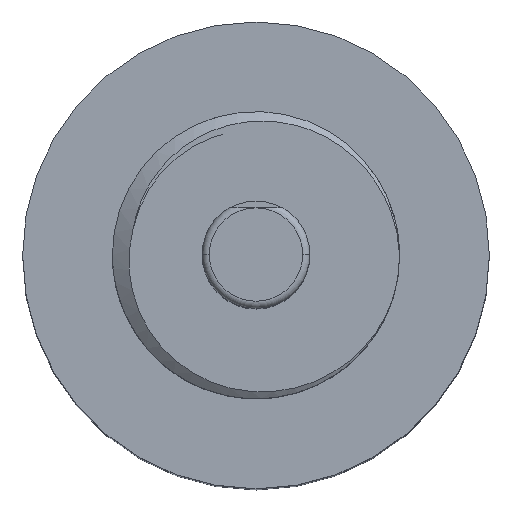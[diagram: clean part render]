
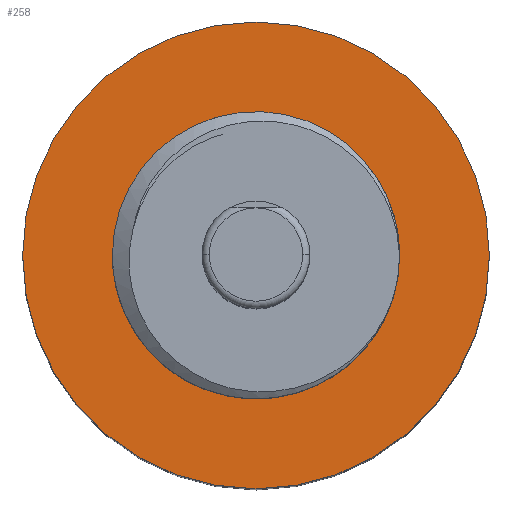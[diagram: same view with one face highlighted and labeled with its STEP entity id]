
A CAD part, top view. The second image highlights one B-rep face of the part: STEP entity #258.
In plain terms, the highlighted planar face has unit normal (0, 0, 1).
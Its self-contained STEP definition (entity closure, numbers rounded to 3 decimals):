
#52 = ORIENTED_EDGE ( 'NONE', *, *, #411, .F. ) ;
#60 = AXIS2_PLACEMENT_3D ( 'NONE', #346, #333, #198 ) ;
#65 = PLANE ( 'NONE',  #575 ) ;
#83 = EDGE_CURVE ( 'NONE', #218, #715, #167, .T. ) ;
#88 = CARTESIAN_POINT ( 'NONE',  ( 3.333, 0., -13.9 ) ) ;
#115 = ORIENTED_EDGE ( 'NONE', *, *, #83, .T. ) ;
#123 = VERTEX_POINT ( 'NONE', #1631 ) ;
#139 = AXIS2_PLACEMENT_3D ( 'NONE', #1385, #737, #1249 ) ;
#167 = CIRCLE ( 'NONE', #60, 3.333 ) ;
#182 = FACE_BOUND ( 'NONE', #328, .T. ) ;
#198 = DIRECTION ( 'NONE',  ( -1., 0., 0. ) ) ;
#210 = EDGE_CURVE ( 'NONE', #715, #218, #871, .T. ) ;
#218 = VERTEX_POINT ( 'NONE', #88 ) ;
#233 = DIRECTION ( 'NONE',  ( -1., 0., 0. ) ) ;
#250 = CIRCLE ( 'NONE', #1201, 6.5 ) ;
#258 = ADVANCED_FACE ( 'NONE', ( #1573, #182 ), #65, .F. ) ;
#328 = EDGE_LOOP ( 'NONE', ( #822, #115 ) ) ;
#333 = DIRECTION ( 'NONE',  ( 0., 0., -1. ) ) ;
#346 = CARTESIAN_POINT ( 'NONE',  ( 0., 0., -13.9 ) ) ;
#369 = AXIS2_PLACEMENT_3D ( 'NONE', #1499, #733, #233 ) ;
#395 = CARTESIAN_POINT ( 'NONE',  ( 0., 0., -13.9 ) ) ;
#397 = CIRCLE ( 'NONE', #369, 6.5 ) ;
#411 = EDGE_CURVE ( 'NONE', #123, #1038, #250, .T. ) ;
#500 = EDGE_LOOP ( 'NONE', ( #52, #559 ) ) ;
#559 = ORIENTED_EDGE ( 'NONE', *, *, #1587, .F. ) ;
#575 = AXIS2_PLACEMENT_3D ( 'NONE', #580, #1608, #937 ) ;
#580 = CARTESIAN_POINT ( 'NONE',  ( 0., -3.333, -13.9 ) ) ;
#620 = CARTESIAN_POINT ( 'NONE',  ( -3.333, 0., -13.9 ) ) ;
#715 = VERTEX_POINT ( 'NONE', #620 ) ;
#733 = DIRECTION ( 'NONE',  ( 0., 0., -1. ) ) ;
#737 = DIRECTION ( 'NONE',  ( 0., 0., -1. ) ) ;
#738 = CARTESIAN_POINT ( 'NONE',  ( 6.5, 0., -13.9 ) ) ;
#764 = DIRECTION ( 'NONE',  ( 0., 0., -1. ) ) ;
#822 = ORIENTED_EDGE ( 'NONE', *, *, #210, .T. ) ;
#871 = CIRCLE ( 'NONE', #139, 3.333 ) ;
#937 = DIRECTION ( 'NONE',  ( -1., 0., 0. ) ) ;
#1038 = VERTEX_POINT ( 'NONE', #738 ) ;
#1201 = AXIS2_PLACEMENT_3D ( 'NONE', #395, #764, #1543 ) ;
#1249 = DIRECTION ( 'NONE',  ( -1., 0., 0. ) ) ;
#1385 = CARTESIAN_POINT ( 'NONE',  ( 0., 0., -13.9 ) ) ;
#1499 = CARTESIAN_POINT ( 'NONE',  ( 0., 0., -13.9 ) ) ;
#1543 = DIRECTION ( 'NONE',  ( -1., 0., 0. ) ) ;
#1573 = FACE_OUTER_BOUND ( 'NONE', #500, .T. ) ;
#1587 = EDGE_CURVE ( 'NONE', #1038, #123, #397, .T. ) ;
#1608 = DIRECTION ( 'NONE',  ( 0., 0., -1. ) ) ;
#1631 = CARTESIAN_POINT ( 'NONE',  ( -6.5, 0., -13.9 ) ) ;
